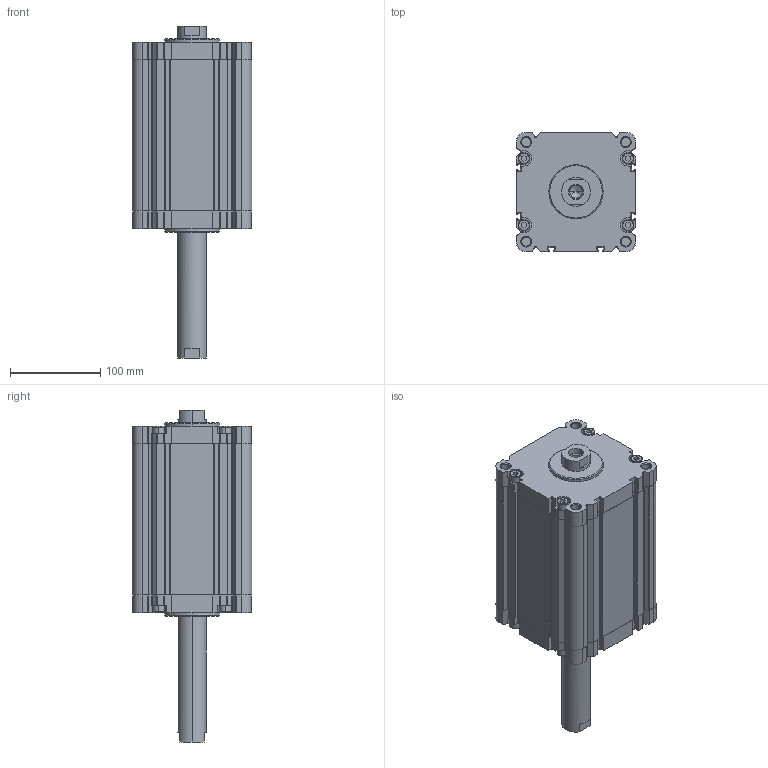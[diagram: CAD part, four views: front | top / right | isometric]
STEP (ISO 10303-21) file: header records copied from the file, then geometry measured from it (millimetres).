
FILE_DESCRIPTION (( 'STEP AP203' ), '1' );
FILE_NAME ('CDVU125-125F-P.STEP', '2020-07-24T18:45:33', ( '' ), ( '' ), 'SwSTEP 2.0', 'SolidWorks 2019', '' );
FILE_SCHEMA (( 'CONFIG_CONTROL_DESIGN' ));
Length unit declared in the file: millimetre
Products named in the file (1): CDVU125-125F-P
Bounding box: 132 x 132 x 367 mm (x, y, z)
Volume: 2155529.2 mm3; surface area: 318128.7 mm2
Topology: 2 solids, 2 shells, 666 faces, 1816 edges, 1184 vertices
Faces by surface type: plane 322, cylinder 276, cone 52, torus 16
Entity records: 21155 total; most frequent: DIRECTION 3778, CARTESIAN_POINT 3659, ORIENTED_EDGE 3616, EDGE_CURVE 1808, AXIS2_PLACEMENT_3D 1303, VERTEX_POINT 1184, VECTOR 1172, LINE 1172
